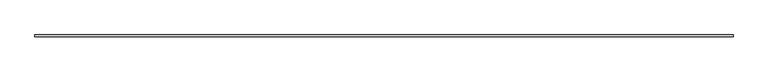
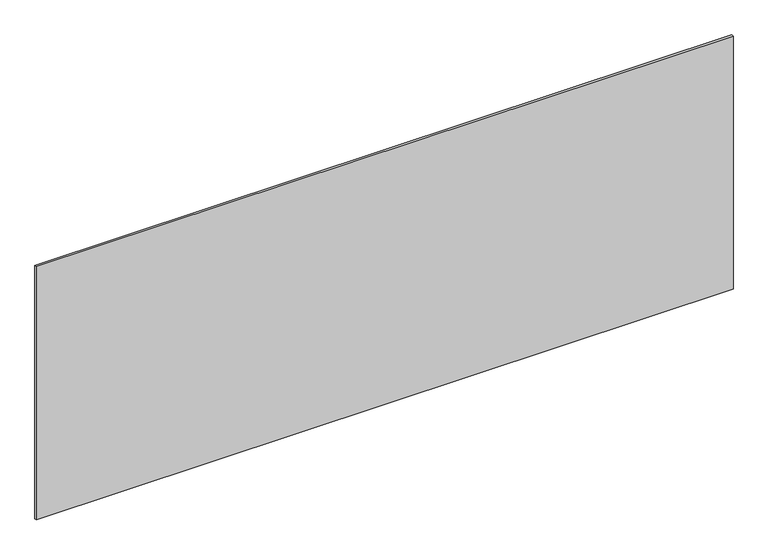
"""IFC4 building model written with IfcOpenShell, lengths in millimetres: plate geometry, システム パネル : 標準."""

from ifc_helpers import new_model, si_unit, origin, origin_with_axes, place, context, project, spatial, polyline, outline, extrude, source, transform, mapped, element, save


def plate_601ae4c3(model_context):
    return source(origin(), model_context, "Body", "SweptSolid", [
        extrude(outline(polyline([(1715.0, -5.0), (-1715.0, -5.0), (-1715.0, 5.0), (1715.0, 5.0), (1715.0, -5.0)])), origin_with_axes(), (0.0, 0.0, 1.0), 1318.3749289),
    ])


if __name__ == "__main__":
    model = new_model("IFC4")
    model_context = context("Model", 3, world=origin())
    ifc_project = project(units=[si_unit("LENGTHUNIT", "METRE", prefix="MILLI")], contexts=[model_context])
    site = spatial("IfcSite", under=ifc_project)
    building = spatial("IfcBuilding", under=site)
    placement = place(None, origin())
    plate_shape = plate_601ae4c3(model_context)
    element("IfcPlate", 1, ObjectType="システム パネル : 標準", at=placement, inside=building, context=model_context, shape_type="MappedRepresentation", body=[
        mapped(plate_shape, transform((0.0, 0.0, 0.0), x_axis=(1.0, 0.0, 0.0), y_axis=(0.0, 1.0, 0.0), z_axis=(0.0, 0.0, 1.0))),
    ])
    save(model, "model.ifc")
